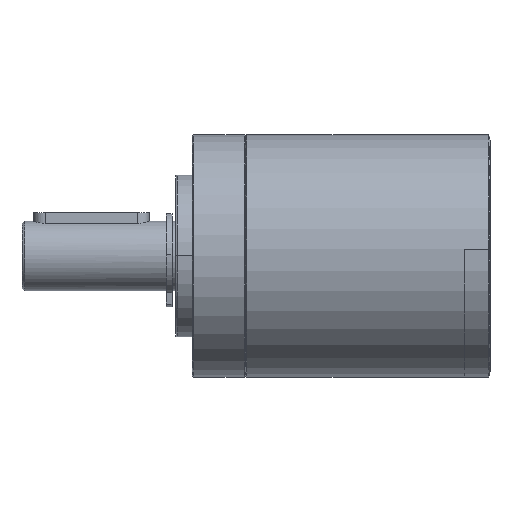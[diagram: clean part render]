
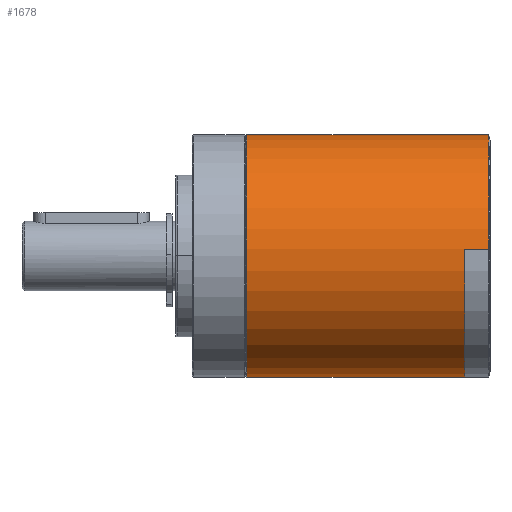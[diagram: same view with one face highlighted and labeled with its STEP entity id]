
A CAD part, top view. The second image highlights one B-rep face of the part: STEP entity #1678.
In plain terms, the highlighted cylindrical face has radius 21 mm (diameter 42 mm), a partial arc.
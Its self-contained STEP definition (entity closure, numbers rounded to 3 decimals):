
#48 = ORIENTED_EDGE ( 'NONE', *, *, #2580, .T. ) ;
#58 = ORIENTED_EDGE ( 'NONE', *, *, #4676, .T. ) ;
#227 = VERTEX_POINT ( 'NONE', #2686 ) ;
#228 = CARTESIAN_POINT ( 'NONE',  ( 0.2, 0., 0. ) ) ;
#259 = ORIENTED_EDGE ( 'NONE', *, *, #579, .F. ) ;
#403 = DIRECTION ( 'NONE',  ( 1., 0., 0. ) ) ;
#444 = DIRECTION ( 'NONE',  ( -1., 0., 0. ) ) ;
#560 = DIRECTION ( 'NONE',  ( 0., 0.999, -0.052 ) ) ;
#579 = EDGE_CURVE ( 'NONE', #1121, #1407, #2889, .T. ) ;
#712 = CARTESIAN_POINT ( 'NONE',  ( 37.95, 1.099, 20.971 ) ) ;
#749 = DIRECTION ( 'NONE',  ( -1., 0., 0. ) ) ;
#886 = CARTESIAN_POINT ( 'NONE',  ( 42.15, 1.099, 20.971 ) ) ;
#946 = ORIENTED_EDGE ( 'NONE', *, *, #3064, .F. ) ;
#950 = VECTOR ( 'NONE', #749, 1000. ) ;
#1027 = AXIS2_PLACEMENT_3D ( 'NONE', #3006, #4901, #560 ) ;
#1121 = VERTEX_POINT ( 'NONE', #5775 ) ;
#1155 = CIRCLE ( 'NONE', #3893, 21. ) ;
#1184 = DIRECTION ( 'NONE',  ( 0., -0.999, 0.052 ) ) ;
#1249 = AXIS2_PLACEMENT_3D ( 'NONE', #1769, #2599, #3540 ) ;
#1263 = DIRECTION ( 'NONE',  ( -1., 0., 0. ) ) ;
#1288 = VERTEX_POINT ( 'NONE', #886 ) ;
#1407 = VERTEX_POINT ( 'NONE', #5628 ) ;
#1466 = VECTOR ( 'NONE', #403, 1000. ) ;
#1678 = ADVANCED_FACE ( 'NONE', ( #4483 ), #5849, .T. ) ;
#1690 = ORIENTED_EDGE ( 'NONE', *, *, #3946, .T. ) ;
#1710 = EDGE_CURVE ( 'NONE', #2984, #1807, #1155, .T. ) ;
#1716 = EDGE_CURVE ( 'NONE', #227, #1407, #3053, .T. ) ;
#1725 = CARTESIAN_POINT ( 'NONE',  ( 42.15, 1.099, 20.971 ) ) ;
#1769 = CARTESIAN_POINT ( 'NONE',  ( 0., 0., 0. ) ) ;
#1807 = VERTEX_POINT ( 'NONE', #3759 ) ;
#1882 = EDGE_LOOP ( 'NONE', ( #3690, #259, #1903, #5477, #1690, #58, #946, #48 ) ) ;
#1903 = ORIENTED_EDGE ( 'NONE', *, *, #5844, .F. ) ;
#2112 = CARTESIAN_POINT ( 'NONE',  ( 0.2, 20.971, -1.099 ) ) ;
#2129 = DIRECTION ( 'NONE',  ( 0., -0.999, 0.052 ) ) ;
#2245 = CIRCLE ( 'NONE', #2831, 21. ) ;
#2412 = CARTESIAN_POINT ( 'NONE',  ( 42.15, 0., 0. ) ) ;
#2462 = AXIS2_PLACEMENT_3D ( 'NONE', #5492, #3566, #2129 ) ;
#2580 = EDGE_CURVE ( 'NONE', #1288, #227, #2245, .T. ) ;
#2582 = LINE ( 'NONE', #2112, #3743 ) ;
#2599 = DIRECTION ( 'NONE',  ( 1., 0., 0. ) ) ;
#2686 = CARTESIAN_POINT ( 'NONE',  ( 42.15, -1.099, -20.971 ) ) ;
#2831 = AXIS2_PLACEMENT_3D ( 'NONE', #2412, #444, #4294 ) ;
#2889 = CIRCLE ( 'NONE', #1027, 21. ) ;
#2984 = VERTEX_POINT ( 'NONE', #4475 ) ;
#3003 = VERTEX_POINT ( 'NONE', #712 ) ;
#3006 = CARTESIAN_POINT ( 'NONE',  ( 37.95, 0., 0. ) ) ;
#3053 = LINE ( 'NONE', #5881, #950 ) ;
#3064 = EDGE_CURVE ( 'NONE', #1288, #3003, #5926, .T. ) ;
#3540 = DIRECTION ( 'NONE',  ( 0., -0.999, 0.052 ) ) ;
#3566 = DIRECTION ( 'NONE',  ( -1., 0., 0. ) ) ;
#3690 = ORIENTED_EDGE ( 'NONE', *, *, #1716, .T. ) ;
#3743 = VECTOR ( 'NONE', #5949, 1000. ) ;
#3759 = CARTESIAN_POINT ( 'NONE',  ( 0.2, 20.971, -1.099 ) ) ;
#3893 = AXIS2_PLACEMENT_3D ( 'NONE', #228, #5403, #1184 ) ;
#3946 = EDGE_CURVE ( 'NONE', #2984, #4663, #4571, .T. ) ;
#4063 = CARTESIAN_POINT ( 'NONE',  ( 37.95, -20.971, 1.099 ) ) ;
#4219 = CARTESIAN_POINT ( 'NONE',  ( 0.2, -20.971, 1.099 ) ) ;
#4294 = DIRECTION ( 'NONE',  ( 0., 0.052, 0.999 ) ) ;
#4475 = CARTESIAN_POINT ( 'NONE',  ( 0.2, -20.971, 1.099 ) ) ;
#4483 = FACE_OUTER_BOUND ( 'NONE', #1882, .T. ) ;
#4571 = LINE ( 'NONE', #4219, #1466 ) ;
#4663 = VERTEX_POINT ( 'NONE', #4063 ) ;
#4676 = EDGE_CURVE ( 'NONE', #4663, #3003, #5230, .T. ) ;
#4875 = VECTOR ( 'NONE', #1263, 1000. ) ;
#4901 = DIRECTION ( 'NONE',  ( -1., 0., 0. ) ) ;
#5230 = CIRCLE ( 'NONE', #2462, 21. ) ;
#5403 = DIRECTION ( 'NONE',  ( -1., 0., 0. ) ) ;
#5477 = ORIENTED_EDGE ( 'NONE', *, *, #1710, .F. ) ;
#5492 = CARTESIAN_POINT ( 'NONE',  ( 37.95, 0., 0. ) ) ;
#5628 = CARTESIAN_POINT ( 'NONE',  ( 37.95, -1.099, -20.971 ) ) ;
#5775 = CARTESIAN_POINT ( 'NONE',  ( 37.95, 20.971, -1.099 ) ) ;
#5844 = EDGE_CURVE ( 'NONE', #1807, #1121, #2582, .T. ) ;
#5849 = CYLINDRICAL_SURFACE ( 'NONE', #1249, 21. ) ;
#5881 = CARTESIAN_POINT ( 'NONE',  ( 42.15, -1.099, -20.971 ) ) ;
#5926 = LINE ( 'NONE', #1725, #4875 ) ;
#5949 = DIRECTION ( 'NONE',  ( 1., 0., 0. ) ) ;
